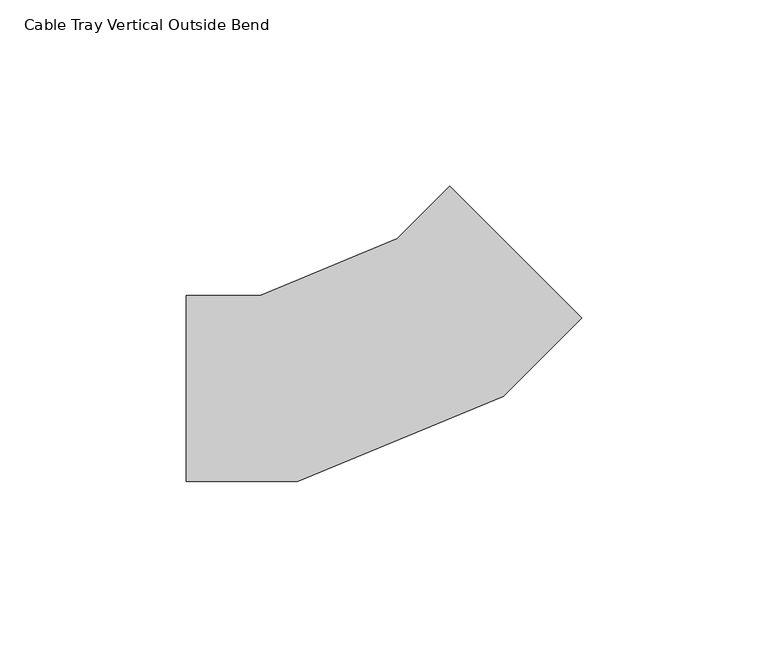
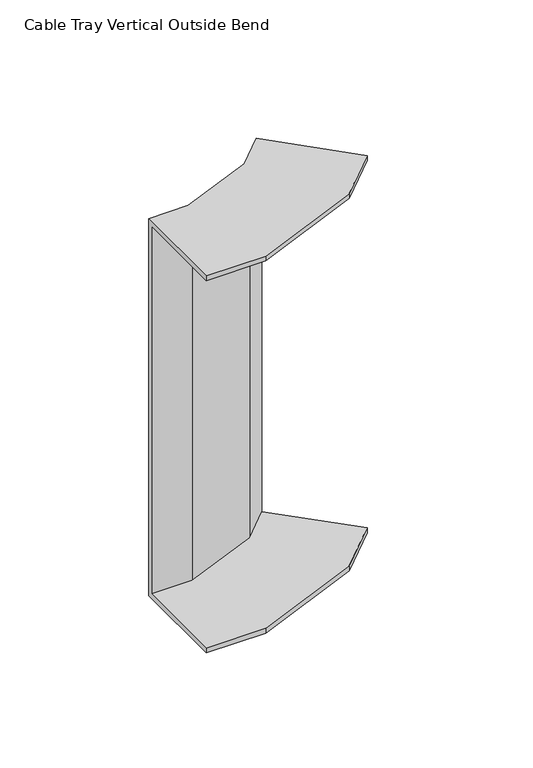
"""IFC4 building model written with IfcOpenShell, lengths in millimetres: cable carrier fitting geometry, Cable Tray Vertical Outside Bend : ELEC_SUB_CT_N2402."""

import ifcopenshell
import ifcopenshell.guid

model = None  # the IFC model being written
_history = None  # IfcOwnerHistory: only IFC2X3 demands one
_inside = {}  # id of a spatial element -> (the spatial element, [elements in it])
_under = {}  # id of a project, library or spatial element -> (it, [spatial elements below it])
_declared = {}  # id of a project -> (the project, [libraries it declares])
_typed = {}  # id of a type object -> (the type object, [elements of that type])
_made_of = {}  # id of a material, layer set ... -> (it, [elements and type objects made of it])


def new_model(schema):
    """Start an empty IFC model of exactly this schema.

    Asked for "IFC4X3", IfcOpenShell would pick the latest addendum, in which some entities
    have other attributes; the version numbers below select the first issue.
    IFC2X3 requires an IfcOwnerHistory on every rooted entity: one is made here for all.
    """
    global model, _history
    if schema == "IFC4X3":
        model = ifcopenshell.file(schema_version=(4, 3, 0, 0))
    else:
        model = ifcopenshell.file(schema=schema)
    _inside.clear()
    _under.clear()
    _declared.clear()
    _typed.clear()
    _made_of.clear()
    _history = None
    if model.schema == "IFC2X3":
        org = make("IfcOrganization", Name="unknown")
        user = make(
            "IfcPersonAndOrganization",
            ThePerson=make("IfcPerson", FamilyName="unknown"),
            TheOrganization=org,
        )
        app = make(
            "IfcApplication",
            ApplicationDeveloper=org,
            Version="unknown",
            ApplicationFullName="unknown",
            ApplicationIdentifier="unknown",
        )
        _history = make(
            "IfcOwnerHistory",
            OwningUser=user,
            OwningApplication=app,
            ChangeAction="ADDED",
            CreationDate=0,
        )
    return model


def make(cls, **values):
    """One entity of the class cls with the attributes given. An attribute that is None is left unset."""
    return model.create_entity(
        cls, **{name: value for name, value in values.items() if value is not None}
    )


def rooted(cls, **values):
    """An entity with a GlobalId (a new one), such as an element, a storey or a relation."""
    return make(cls, GlobalId=ifcopenshell.guid.new(), OwnerHistory=_history, **values)


def si_unit(unit_type, name, prefix=None):
    """IfcSIUnit, for example si_unit("LENGTHUNIT", "METRE", prefix="MILLI")."""
    return make("IfcSIUnit", UnitType=unit_type, Prefix=prefix, Name=name)


def assignment(units):
    """IfcUnitAssignment: the units of a project."""
    return None if units is None else make("IfcUnitAssignment", Units=units)


def point(xyz):
    """IfcCartesianPoint."""
    return None if xyz is None else make("IfcCartesianPoint", Coordinates=xyz)


def direction(xyz):
    """IfcDirection."""
    return None if xyz is None else make("IfcDirection", DirectionRatios=xyz)


def frame(location, z_axis=None, x_axis=None):
    """IfcAxis2Placement3D, a coordinate frame: its origin and axes. An axis left out is left unset."""
    return make(
        "IfcAxis2Placement3D",
        Location=point(location),
        Axis=direction(z_axis),
        RefDirection=direction(x_axis),
    )


def origin():
    """The frame at (0, 0, 0) with its axes left unset."""
    return frame((0.0, 0.0, 0.0))


def place(relative_to, where):
    """IfcLocalPlacement: puts the frame where relative to a parent placement (None: the world)."""
    return make(
        "IfcLocalPlacement", PlacementRelTo=relative_to, RelativePlacement=where
    )


def context(
    kind, dimensions, precision=None, world=None, true_north=None, identifier=None
):
    """IfcGeometricRepresentationContext, for example the 3D "Model" context."""
    return make(
        "IfcGeometricRepresentationContext",
        ContextIdentifier=identifier,
        ContextType=kind,
        CoordinateSpaceDimension=dimensions,
        Precision=precision,
        WorldCoordinateSystem=world,
        TrueNorth=true_north,
    )


def project(units=None, contexts=None):
    """IfcProject with its units and contexts."""
    return rooted(
        "IfcProject",
        Name="project",
        RepresentationContexts=contexts,
        UnitsInContext=assignment(units),
    )


def spatial(cls, under=None, at=None, **own):
    """A site, building, storey or space (cls), placed at a placement, below another one or the project."""
    s = rooted(cls, ObjectPlacement=at, **own)
    if under is not None:
        _under.setdefault(under.id(), (under, []))[1].append(s)
    return s


def faces_of(points, faces, orient=None, outer=None):
    """IfcFace entities. A face is a list of loops; a loop is a list of indices into points, from 0.

    orient and outer hold one flag for each loop. By default every Orientation is true, the
    first loop of a face is its IfcFaceOuterBound and the others are IfcFaceBound.
    """
    made = []
    for i, loops in enumerate(faces):
        bounds = []
        for j, loop in enumerate(loops):
            is_outer = j == 0 if outer is None else outer[i][j]
            bounds.append(
                make(
                    "IfcFaceOuterBound" if is_outer else "IfcFaceBound",
                    Bound=make("IfcPolyLoop", Polygon=[points[k] for k in loop]),
                    Orientation=True if orient is None else orient[i][j],
                )
            )
        made.append(make("IfcFace", Bounds=bounds))
    return made


def faceted_brep(points, faces, orient=None, outer=None, voids=None):
    """IfcFacetedBrep: a solid bounded by flat faces; with voids (closed shells), ...WithVoids."""
    shared = [point(p) for p in points]
    hull = make("IfcClosedShell", CfsFaces=faces_of(shared, faces, orient, outer))
    if voids is None:
        return make("IfcFacetedBrep", Outer=hull)
    return make(
        "IfcFacetedBrepWithVoids",
        Outer=hull,
        Voids=[
            make(cls, CfsFaces=faces_of(shared, fs, o, b)) for cls, fs, o, b in voids
        ],
    )


def shape(context_of_items, identifier, shape_type, items):
    """IfcShapeRepresentation: the items that make up one representation, for example the "Body"."""
    return make(
        "IfcShapeRepresentation",
        ContextOfItems=context_of_items,
        RepresentationIdentifier=identifier,
        RepresentationType=shape_type,
        Items=items,
    )


def source(mapping_origin, context_of_items, identifier, shape_type, items):
    """IfcRepresentationMap: a shape defined once, which mapped items show again and again."""
    return make(
        "IfcRepresentationMap",
        MappingOrigin=mapping_origin,
        MappedRepresentation=shape(context_of_items, identifier, shape_type, items),
    )


def transform(
    local_origin,
    x_axis=None,
    y_axis=None,
    z_axis=None,
    scale=None,
    scale2=None,
    scale3=None,
    uniform=True,
):
    """IfcCartesianTransformationOperator3D, or its non-uniform kind. x_axis, y_axis, z_axis: its Axis1, 2, 3."""
    if uniform:
        return make(
            "IfcCartesianTransformationOperator3D",
            Axis1=direction(x_axis),
            Axis2=direction(y_axis),
            LocalOrigin=point(local_origin),
            Scale=scale,
            Axis3=direction(z_axis),
        )
    return make(
        "IfcCartesianTransformationOperator3DnonUniform",
        Axis1=direction(x_axis),
        Axis2=direction(y_axis),
        LocalOrigin=point(local_origin),
        Scale=scale,
        Axis3=direction(z_axis),
        Scale2=scale2,
        Scale3=scale3,
    )


def mapped(mapping_source, mapping_target):
    """IfcMappedItem: shows the shape of a source again, moved by a transform."""
    return make(
        "IfcMappedItem", MappingSource=mapping_source, MappingTarget=mapping_target
    )


def made_of(thing, what):
    """Note that an element or type object is made of a material, layer set ...; save() writes the relation."""
    if what is not None:
        _made_of.setdefault(what.id(), (what, []))[1].append(thing)
    return thing


def element(
    cls,
    number,
    at=None,
    inside=None,
    cuts=None,
    type_object=None,
    material=None,
    context=None,
    identifier="Body",
    shape_type=None,
    held_by="IfcProductDefinitionShape",
    body=None,
    shapes=None,
    **own,
):
    """One element of the class cls, such as IfcWall. Its Tag is "e" and its number.

    at: its placement. inside: the storey or other place that contains it. cuts: it is an
    opening in that element (IfcRelVoidsElement). A single representation is given by context,
    identifier, shape_type and body (its items); several are given by shapes. held_by: the class
    of the entity that holds the representations. save() writes the other relations.
    """
    e = rooted(cls, Tag="e%d" % number, ObjectPlacement=at, **own)
    if body is not None:
        shapes = [shape(context, identifier, shape_type, body)]
    if shapes is not None:
        e.Representation = make(held_by, Representations=shapes)
    if inside is not None:
        _inside.setdefault(inside.id(), (inside, []))[1].append(e)
    if cuts is not None:
        rooted(
            "IfcRelVoidsElement", RelatingBuildingElement=cuts, RelatedOpeningElement=e
        )
    if type_object is not None:
        _typed.setdefault(type_object.id(), (type_object, []))[1].append(e)
    return made_of(e, material)


def aggregate(whole, parts):
    """IfcRelAggregates: a whole, such as a stair, and the parts it consists of."""
    return rooted("IfcRelAggregates", RelatingObject=whole, RelatedObjects=parts)


def save(model, path):
    """Write the relations noted so far, then the file.

    IfcRelAggregates (storeys below a building ...), IfcRelContainedInSpatialStructure (elements
    in a storey), IfcRelDefinesByType, IfcRelAssociatesMaterial and IfcRelDeclares: one each for
    every whole, place, type object, material and project.
    """
    for whole, parts in _under.values():
        aggregate(whole, parts)
    for where, things in _inside.values():
        rooted(
            "IfcRelContainedInSpatialStructure",
            RelatedElements=things,
            RelatingStructure=where,
        )
    for kind, things in _typed.values():
        rooted("IfcRelDefinesByType", RelatedObjects=things, RelatingType=kind)
    for what, things in _made_of.values():
        rooted("IfcRelAssociatesMaterial", RelatedObjects=things, RelatingMaterial=what)
    for by, libraries in _declared.values():
        rooted("IfcRelDeclares", RelatingContext=by, RelatedDefinitions=libraries)
    model.write(path)


def cable_tray_vertical_outside_bend_fb3c5a79(model_context):
    return source(origin(), model_context, "Body", "Brep", [
        faceted_brep([(-51.7766953, -25.0, 100.0), (-51.7766953, 25.0, 100.0), (-51.7766953, 25.0, -100.0), (-51.7766953, -25.0, -100.0), (-51.7766953, -25.0, -97.46), (-51.7766953, 22.46, -97.46), (-51.7766953, 22.46, 97.46), (-51.7766953, -25.0, 97.46), (54.2893219, 18.9339828, 100.0), (54.2893219, 18.9339828, 97.46), (20.730034, 52.4932707, 97.46), (20.730034, 52.4932707, -97.46), (54.2893219, 18.9339828, -97.46), (54.2893219, 18.9339828, -100.0), (18.9339828, 54.2893219, -100.0), (18.9339828, 54.2893219, 100.0), (-21.9398402, -25.0, 100.0), (33.1914793, -2.1638598, 100.0), (4.8687544, 40.2240935, 100.0), (-31.8854586, 25.0, 100.0), (-31.8854586, 25.0, -100.0), (4.8687544, 40.2240935, -100.0), (33.1914793, -2.1638598, -100.0), (-21.9398402, -25.0, -100.0), (-21.9398402, -25.0, -97.46), (33.1914793, -2.1638598, -97.46), (6.3075489, 38.0707855, -97.46), (-31.3802211, 22.46, -97.46), (-31.3802211, 22.46, 97.46), (6.3075489, 38.0707855, 97.46), (33.1914793, -2.1638598, 97.46), (-21.9398402, -25.0, 97.46)], [[[0, 1, 2, 3, 4, 5, 6, 7]], [[8, 9, 10, 11, 12, 13, 14, 15]], [[1, 0, 16, 17, 8, 15, 18, 19]], [[2, 1, 19, 20]], [[3, 2, 20, 21, 14, 13, 22, 23]], [[4, 3, 23, 24]], [[5, 4, 24, 25, 12, 11, 26, 27]], [[6, 5, 27, 28]], [[7, 6, 28, 29, 10, 9, 30, 31]], [[0, 7, 31, 16]], [[20, 19, 18, 21]], [[24, 23, 22, 25]], [[28, 27, 26, 29]], [[16, 31, 30, 17]], [[21, 18, 15, 14]], [[25, 22, 13, 12]], [[29, 26, 11, 10]], [[17, 30, 9, 8]]]),
    ])


if __name__ == "__main__":
    model = new_model("IFC4")
    model_context = context("Model", 3, world=origin())
    ifc_project = project(units=[si_unit("LENGTHUNIT", "METRE", prefix="MILLI")], contexts=[model_context])
    site = spatial("IfcSite", under=ifc_project)
    building = spatial("IfcBuilding", under=site)
    placement = place(None, origin())
    cable_tray_vertical_outside_bend_shape = cable_tray_vertical_outside_bend_fb3c5a79(model_context)
    element("IfcCableCarrierFitting", 1, ObjectType="Cable Tray Vertical Outside Bend : ELEC_SUB_CT_N2402", at=placement, inside=building, context=model_context, shape_type="MappedRepresentation", body=[
        mapped(cable_tray_vertical_outside_bend_shape, transform((0.0, 0.0, 0.0), x_axis=(1.0, 0.0, 0.0), y_axis=(0.0, 1.0, 0.0), z_axis=(0.0, 0.0, 1.0))),
    ])
    save(model, "model.ifc")
